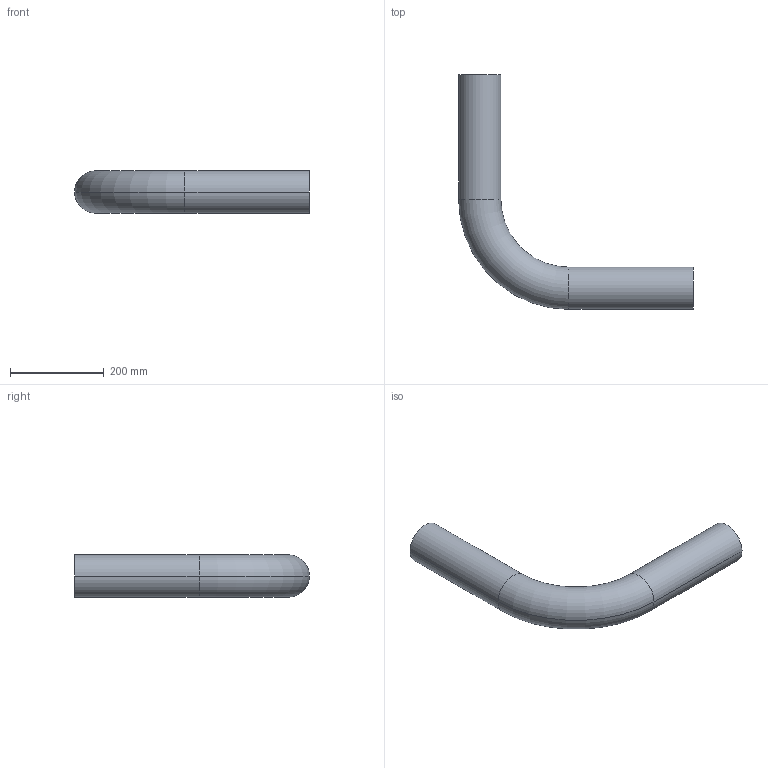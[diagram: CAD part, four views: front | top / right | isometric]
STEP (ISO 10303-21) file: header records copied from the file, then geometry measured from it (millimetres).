
FILE_DESCRIPTION (( 'STEP AP214' ), '1' );
FILE_NAME ('KP_3-90FC.step', '2012-12-14T08:57:13', ( '' ), ( '' ), 'SwSTEP 2.0', 'SolidWorks 2012', '' );
FILE_SCHEMA (( 'AUTOMOTIVE_DESIGN' ));
Length unit declared in the file: millimetre
Products named in the file (1): KP_3-90FC
Bounding box: 500 x 500 x 90 mm (x, y, z)
Volume: 1897336.6 mm3; surface area: 426210.8 mm2
Topology: 1 solids, 1 shells, 14 faces, 28 edges, 16 vertices
Faces by surface type: cylinder 8, torus 4, plane 2
Entity records: 406 total; most frequent: DIRECTION 78, CARTESIAN_POINT 59, ORIENTED_EDGE 56, AXIS2_PLACEMENT_3D 35, EDGE_CURVE 28, CIRCLE 20, EDGE_LOOP 16, VERTEX_POINT 16
